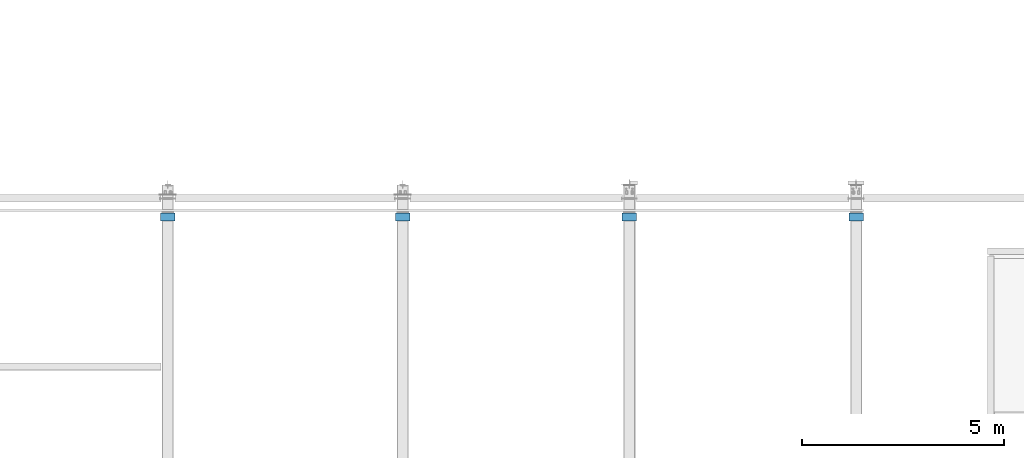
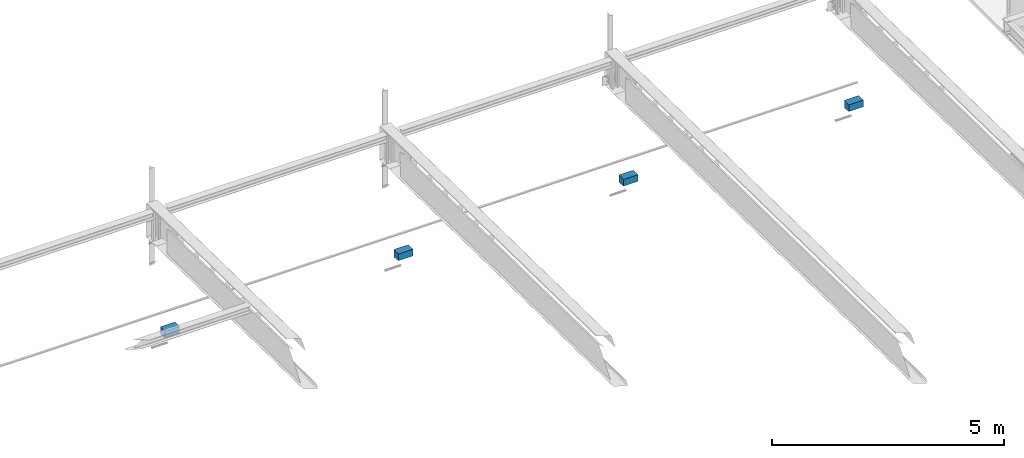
# One storey, part 20 of 186: 4 beams.
"""IFC4X3_ADD2 building model written with IfcOpenShell, lengths in millimetres."""

import ifcopenshell
import ifcopenshell.guid

model = None  # the IFC model being written
_history = None  # IfcOwnerHistory: only IFC2X3 demands one
_inside = {}  # id of a spatial element -> (the spatial element, [elements in it])
_under = {}  # id of a project, library or spatial element -> (it, [spatial elements below it])
_declared = {}  # id of a project -> (the project, [libraries it declares])
_typed = {}  # id of a type object -> (the type object, [elements of that type])
_made_of = {}  # id of a material, layer set ... -> (it, [elements and type objects made of it])


def new_model(schema):
    """Start an empty IFC model of exactly this schema.

    Asked for "IFC4X3", IfcOpenShell would pick the latest addendum, in which some entities
    have other attributes; the version numbers below select the first issue.
    IFC2X3 requires an IfcOwnerHistory on every rooted entity: one is made here for all.
    """
    global model, _history
    if schema == "IFC4X3":
        model = ifcopenshell.file(schema_version=(4, 3, 0, 0))
    else:
        model = ifcopenshell.file(schema=schema)
    _inside.clear()
    _under.clear()
    _declared.clear()
    _typed.clear()
    _made_of.clear()
    _history = None
    if model.schema == "IFC2X3":
        org = make("IfcOrganization", Name="unknown")
        user = make(
            "IfcPersonAndOrganization",
            ThePerson=make("IfcPerson", FamilyName="unknown"),
            TheOrganization=org,
        )
        app = make(
            "IfcApplication",
            ApplicationDeveloper=org,
            Version="unknown",
            ApplicationFullName="unknown",
            ApplicationIdentifier="unknown",
        )
        _history = make(
            "IfcOwnerHistory",
            OwningUser=user,
            OwningApplication=app,
            ChangeAction="ADDED",
            CreationDate=0,
        )
    return model


def make(cls, **values):
    """One entity of the class cls with the attributes given. An attribute that is None is left unset."""
    return model.create_entity(
        cls, **{name: value for name, value in values.items() if value is not None}
    )


def entity(cls, *values):
    """Any entity or typed value of the class cls, its attributes in the order of the schema. None: left unset."""
    e = model.create_entity(cls)
    for i, value in enumerate(values):
        if value is not None:
            e[i] = value
    return e


def rooted(cls, **values):
    """An entity with a GlobalId (a new one), such as an element, a storey or a relation."""
    return make(cls, GlobalId=ifcopenshell.guid.new(), OwnerHistory=_history, **values)


def si_unit(unit_type, name, prefix=None):
    """IfcSIUnit, for example si_unit("LENGTHUNIT", "METRE", prefix="MILLI")."""
    return make("IfcSIUnit", UnitType=unit_type, Prefix=prefix, Name=name)


def assignment(units):
    """IfcUnitAssignment: the units of a project."""
    return None if units is None else make("IfcUnitAssignment", Units=units)


def point(xyz):
    """IfcCartesianPoint."""
    return None if xyz is None else make("IfcCartesianPoint", Coordinates=xyz)


def direction(xyz):
    """IfcDirection."""
    return None if xyz is None else make("IfcDirection", DirectionRatios=xyz)


def frame(location, z_axis=None, x_axis=None):
    """IfcAxis2Placement3D, a coordinate frame: its origin and axes. An axis left out is left unset."""
    return make(
        "IfcAxis2Placement3D",
        Location=point(location),
        Axis=direction(z_axis),
        RefDirection=direction(x_axis),
    )


def origin_with_axes():
    """The frame at (0, 0, 0) with the z axis (0, 0, 1) and the x axis (1, 0, 0) written out."""
    return frame((0.0, 0.0, 0.0), z_axis=(0.0, 0.0, 1.0), x_axis=(1.0, 0.0, 0.0))


def place(relative_to, where):
    """IfcLocalPlacement: puts the frame where relative to a parent placement (None: the world)."""
    return make(
        "IfcLocalPlacement", PlacementRelTo=relative_to, RelativePlacement=where
    )


def context(
    kind, dimensions, precision=None, world=None, true_north=None, identifier=None
):
    """IfcGeometricRepresentationContext, for example the 3D "Model" context."""
    return make(
        "IfcGeometricRepresentationContext",
        ContextIdentifier=identifier,
        ContextType=kind,
        CoordinateSpaceDimension=dimensions,
        Precision=precision,
        WorldCoordinateSystem=world,
        TrueNorth=true_north,
    )


def subcontext(parent, identifier, kind, view, scale=None):
    """IfcGeometricRepresentationSubContext, for example "Body" below "Model"."""
    return make(
        "IfcGeometricRepresentationSubContext",
        ContextIdentifier=identifier,
        ContextType=kind,
        ParentContext=parent,
        TargetScale=scale,
        TargetView=view,
    )


def project(units=None, contexts=None):
    """IfcProject with its units and contexts."""
    return rooted(
        "IfcProject",
        Name="project",
        RepresentationContexts=contexts,
        UnitsInContext=assignment(units),
    )


def spatial(cls, under=None, at=None, **own):
    """A site, building, storey or space (cls), placed at a placement, below another one or the project."""
    s = rooted(cls, ObjectPlacement=at, **own)
    if under is not None:
        _under.setdefault(under.id(), (under, []))[1].append(s)
    return s


def extrude(swept, where, along, depth):
    """IfcExtrudedAreaSolid: the profile swept, set in the frame where, extruded along a direction by depth."""
    return make(
        "IfcExtrudedAreaSolid",
        SweptArea=swept,
        Position=where,
        ExtrudedDirection=direction(along),
        Depth=depth,
    )


def shape(context_of_items, identifier, shape_type, items):
    """IfcShapeRepresentation: the items that make up one representation, for example the "Body"."""
    return make(
        "IfcShapeRepresentation",
        ContextOfItems=context_of_items,
        RepresentationIdentifier=identifier,
        RepresentationType=shape_type,
        Items=items,
    )


def material(Name=None, Category=None):
    """IfcMaterial."""
    return make("IfcMaterial", Name=Name, Category=Category)


def made_of(thing, what):
    """Note that an element or type object is made of a material, layer set ...; save() writes the relation."""
    if what is not None:
        _made_of.setdefault(what.id(), (what, []))[1].append(thing)
    return thing


def element(
    cls,
    number,
    at=None,
    inside=None,
    cuts=None,
    type_object=None,
    material=None,
    context=None,
    identifier="Body",
    shape_type=None,
    held_by="IfcProductDefinitionShape",
    body=None,
    shapes=None,
    **own,
):
    """One element of the class cls, such as IfcWall. Its Tag is "e" and its number.

    at: its placement. inside: the storey or other place that contains it. cuts: it is an
    opening in that element (IfcRelVoidsElement). A single representation is given by context,
    identifier, shape_type and body (its items); several are given by shapes. held_by: the class
    of the entity that holds the representations. save() writes the other relations.
    """
    e = rooted(cls, Tag="e%d" % number, ObjectPlacement=at, **own)
    if body is not None:
        shapes = [shape(context, identifier, shape_type, body)]
    if shapes is not None:
        e.Representation = make(held_by, Representations=shapes)
    if inside is not None:
        _inside.setdefault(inside.id(), (inside, []))[1].append(e)
    if cuts is not None:
        rooted(
            "IfcRelVoidsElement", RelatingBuildingElement=cuts, RelatedOpeningElement=e
        )
    if type_object is not None:
        _typed.setdefault(type_object.id(), (type_object, []))[1].append(e)
    return made_of(e, material)


def aggregate(whole, parts):
    """IfcRelAggregates: a whole, such as a stair, and the parts it consists of."""
    return rooted("IfcRelAggregates", RelatingObject=whole, RelatedObjects=parts)


def save(model, path):
    """Write the relations noted so far, then the file.

    IfcRelAggregates (storeys below a building ...), IfcRelContainedInSpatialStructure (elements
    in a storey), IfcRelDefinesByType, IfcRelAssociatesMaterial and IfcRelDeclares: one each for
    every whole, place, type object, material and project.
    """
    for whole, parts in _under.values():
        aggregate(whole, parts)
    for where, things in _inside.values():
        rooted(
            "IfcRelContainedInSpatialStructure",
            RelatedElements=things,
            RelatingStructure=where,
        )
    for kind, things in _typed.values():
        rooted("IfcRelDefinesByType", RelatedObjects=things, RelatingType=kind)
    for what, things in _made_of.values():
        rooted("IfcRelAssociatesMaterial", RelatedObjects=things, RelatingMaterial=what)
    for by, libraries in _declared.values():
        rooted("IfcRelDeclares", RelatingContext=by, RelatedDefinitions=libraries)
    model.write(path)


model = new_model("IFC4X3_ADD2")

# Units and contexts
model_context = context("Model", 3, precision=1e-05, world=origin_with_axes(), true_north=direction((0.0, 1.0)))
body_context = subcontext(model_context, "Body", "Model", "MODEL_VIEW")
ifc_project = project(units=[si_unit("LENGTHUNIT", "METRE", prefix="MILLI"), si_unit("AREAUNIT", "SQUARE_METRE"), si_unit("VOLUMEUNIT", "CUBIC_METRE"), si_unit("PLANEANGLEUNIT", "RADIAN"), si_unit("TIMEUNIT", "SECOND"), si_unit("MASSUNIT", "GRAM")], contexts=[model_context])

# Site, building, storey
site_placement = place(None, origin_with_axes())
site = spatial("IfcSite", under=ifc_project, at=site_placement, Name="Site", CompositionType="ELEMENT")
building_placement = place(site_placement, origin_with_axes())
building = spatial("IfcBuilding", under=site, at=building_placement, Name="IFC Building Story")
storey_placement = place(building_placement, frame((0.0, 0.0, 4370.0), z_axis=(0.0, 0.0, 1.0), x_axis=(1.0, 0.0, 0.0)))
storey = spatial("IfcBuildingStorey", under=building, at=storey_placement, Name="ETAGE 10 (1)", Elevation=4370.0)

# Beams
ifc_material = material(Name="STEEL/Accessory_C60/75")
for number, where, z_axis, x_axis, name in (
    (1, (10576.1886362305, 17199.9997253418, 1810.0), (1.0, 0.0, 0.0), (0.0, 0.0, 1.0), "BEK1"),
    (2, (16376.1888269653, 17199.9997253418, 1810.0), (1.0, 0.0, 0.0), (0.0, 0.0, 1.0), "BEK1"),
    (3, (21976.1892084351, 17199.9997253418, 1810.0), (1.0, 0.0, 0.0), (0.0, 0.0, 1.0), "BEK1"),
    (4, (27576.1886362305, 17199.9997253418, 1810.0), (1.0, 0.0, 0.0), (0.0, 0.0, 1.0), "BEK1"),
):
    element("IfcBeam", number, at=place(storey_placement, frame(where, z_axis=z_axis, x_axis=x_axis)), inside=storey, material=ifc_material, Name=name, ObjectType="CORBEL200-200-175", context=body_context, shape_type="SweptSolid", body=[
        extrude(entity("IfcTrapeziumProfileDef", "AREA", None, entity("IfcAxis2Placement2D", entity("IfcCartesianPoint", [0.0, 5.95523630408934e-12]), entity("IfcDirection", [1.0, 0.0])), 200.0, 175.0, 200.0, 25.0), origin_with_axes(), (0.0, 0.0, 1.0), 360.0),
    ])

save(model, "model.ifc")
